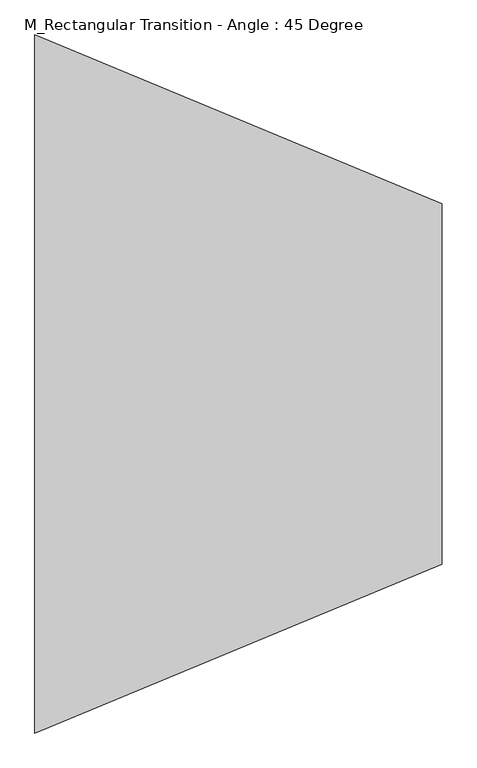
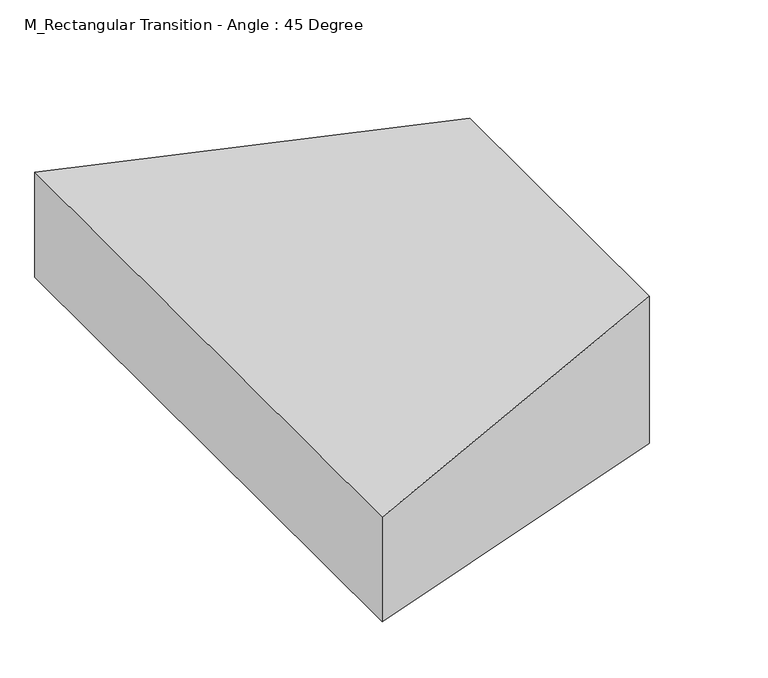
"""IFC4 building model written with IfcOpenShell, lengths in millimetres: duct fitting geometry, M_Rectangular Transition - Angle : 45 Degree."""

import ifcopenshell
import ifcopenshell.guid

model = None  # the IFC model being written
_history = None  # IfcOwnerHistory: only IFC2X3 demands one
_inside = {}  # id of a spatial element -> (the spatial element, [elements in it])
_under = {}  # id of a project, library or spatial element -> (it, [spatial elements below it])
_declared = {}  # id of a project -> (the project, [libraries it declares])
_typed = {}  # id of a type object -> (the type object, [elements of that type])
_made_of = {}  # id of a material, layer set ... -> (it, [elements and type objects made of it])


def new_model(schema):
    """Start an empty IFC model of exactly this schema.

    Asked for "IFC4X3", IfcOpenShell would pick the latest addendum, in which some entities
    have other attributes; the version numbers below select the first issue.
    IFC2X3 requires an IfcOwnerHistory on every rooted entity: one is made here for all.
    """
    global model, _history
    if schema == "IFC4X3":
        model = ifcopenshell.file(schema_version=(4, 3, 0, 0))
    else:
        model = ifcopenshell.file(schema=schema)
    _inside.clear()
    _under.clear()
    _declared.clear()
    _typed.clear()
    _made_of.clear()
    _history = None
    if model.schema == "IFC2X3":
        org = make("IfcOrganization", Name="unknown")
        user = make(
            "IfcPersonAndOrganization",
            ThePerson=make("IfcPerson", FamilyName="unknown"),
            TheOrganization=org,
        )
        app = make(
            "IfcApplication",
            ApplicationDeveloper=org,
            Version="unknown",
            ApplicationFullName="unknown",
            ApplicationIdentifier="unknown",
        )
        _history = make(
            "IfcOwnerHistory",
            OwningUser=user,
            OwningApplication=app,
            ChangeAction="ADDED",
            CreationDate=0,
        )
    return model


def make(cls, **values):
    """One entity of the class cls with the attributes given. An attribute that is None is left unset."""
    return model.create_entity(
        cls, **{name: value for name, value in values.items() if value is not None}
    )


def rooted(cls, **values):
    """An entity with a GlobalId (a new one), such as an element, a storey or a relation."""
    return make(cls, GlobalId=ifcopenshell.guid.new(), OwnerHistory=_history, **values)


def si_unit(unit_type, name, prefix=None):
    """IfcSIUnit, for example si_unit("LENGTHUNIT", "METRE", prefix="MILLI")."""
    return make("IfcSIUnit", UnitType=unit_type, Prefix=prefix, Name=name)


def assignment(units):
    """IfcUnitAssignment: the units of a project."""
    return None if units is None else make("IfcUnitAssignment", Units=units)


def point(xyz):
    """IfcCartesianPoint."""
    return None if xyz is None else make("IfcCartesianPoint", Coordinates=xyz)


def direction(xyz):
    """IfcDirection."""
    return None if xyz is None else make("IfcDirection", DirectionRatios=xyz)


def frame(location, z_axis=None, x_axis=None):
    """IfcAxis2Placement3D, a coordinate frame: its origin and axes. An axis left out is left unset."""
    return make(
        "IfcAxis2Placement3D",
        Location=point(location),
        Axis=direction(z_axis),
        RefDirection=direction(x_axis),
    )


def origin():
    """The frame at (0, 0, 0) with its axes left unset."""
    return frame((0.0, 0.0, 0.0))


def place(relative_to, where):
    """IfcLocalPlacement: puts the frame where relative to a parent placement (None: the world)."""
    return make(
        "IfcLocalPlacement", PlacementRelTo=relative_to, RelativePlacement=where
    )


def context(
    kind, dimensions, precision=None, world=None, true_north=None, identifier=None
):
    """IfcGeometricRepresentationContext, for example the 3D "Model" context."""
    return make(
        "IfcGeometricRepresentationContext",
        ContextIdentifier=identifier,
        ContextType=kind,
        CoordinateSpaceDimension=dimensions,
        Precision=precision,
        WorldCoordinateSystem=world,
        TrueNorth=true_north,
    )


def project(units=None, contexts=None):
    """IfcProject with its units and contexts."""
    return rooted(
        "IfcProject",
        Name="project",
        RepresentationContexts=contexts,
        UnitsInContext=assignment(units),
    )


def spatial(cls, under=None, at=None, **own):
    """A site, building, storey or space (cls), placed at a placement, below another one or the project."""
    s = rooted(cls, ObjectPlacement=at, **own)
    if under is not None:
        _under.setdefault(under.id(), (under, []))[1].append(s)
    return s


def faces_of(points, faces, orient=None, outer=None):
    """IfcFace entities. A face is a list of loops; a loop is a list of indices into points, from 0.

    orient and outer hold one flag for each loop. By default every Orientation is true, the
    first loop of a face is its IfcFaceOuterBound and the others are IfcFaceBound.
    """
    made = []
    for i, loops in enumerate(faces):
        bounds = []
        for j, loop in enumerate(loops):
            is_outer = j == 0 if outer is None else outer[i][j]
            bounds.append(
                make(
                    "IfcFaceOuterBound" if is_outer else "IfcFaceBound",
                    Bound=make("IfcPolyLoop", Polygon=[points[k] for k in loop]),
                    Orientation=True if orient is None else orient[i][j],
                )
            )
        made.append(make("IfcFace", Bounds=bounds))
    return made


def faceted_brep(points, faces, orient=None, outer=None, voids=None):
    """IfcFacetedBrep: a solid bounded by flat faces; with voids (closed shells), ...WithVoids."""
    shared = [point(p) for p in points]
    hull = make("IfcClosedShell", CfsFaces=faces_of(shared, faces, orient, outer))
    if voids is None:
        return make("IfcFacetedBrep", Outer=hull)
    return make(
        "IfcFacetedBrepWithVoids",
        Outer=hull,
        Voids=[
            make(cls, CfsFaces=faces_of(shared, fs, o, b)) for cls, fs, o, b in voids
        ],
    )


def shape(context_of_items, identifier, shape_type, items):
    """IfcShapeRepresentation: the items that make up one representation, for example the "Body"."""
    return make(
        "IfcShapeRepresentation",
        ContextOfItems=context_of_items,
        RepresentationIdentifier=identifier,
        RepresentationType=shape_type,
        Items=items,
    )


def source(mapping_origin, context_of_items, identifier, shape_type, items):
    """IfcRepresentationMap: a shape defined once, which mapped items show again and again."""
    return make(
        "IfcRepresentationMap",
        MappingOrigin=mapping_origin,
        MappedRepresentation=shape(context_of_items, identifier, shape_type, items),
    )


def transform(
    local_origin,
    x_axis=None,
    y_axis=None,
    z_axis=None,
    scale=None,
    scale2=None,
    scale3=None,
    uniform=True,
):
    """IfcCartesianTransformationOperator3D, or its non-uniform kind. x_axis, y_axis, z_axis: its Axis1, 2, 3."""
    if uniform:
        return make(
            "IfcCartesianTransformationOperator3D",
            Axis1=direction(x_axis),
            Axis2=direction(y_axis),
            LocalOrigin=point(local_origin),
            Scale=scale,
            Axis3=direction(z_axis),
        )
    return make(
        "IfcCartesianTransformationOperator3DnonUniform",
        Axis1=direction(x_axis),
        Axis2=direction(y_axis),
        LocalOrigin=point(local_origin),
        Scale=scale,
        Axis3=direction(z_axis),
        Scale2=scale2,
        Scale3=scale3,
    )


def mapped(mapping_source, mapping_target):
    """IfcMappedItem: shows the shape of a source again, moved by a transform."""
    return make(
        "IfcMappedItem", MappingSource=mapping_source, MappingTarget=mapping_target
    )


def made_of(thing, what):
    """Note that an element or type object is made of a material, layer set ...; save() writes the relation."""
    if what is not None:
        _made_of.setdefault(what.id(), (what, []))[1].append(thing)
    return thing


def element(
    cls,
    number,
    at=None,
    inside=None,
    cuts=None,
    type_object=None,
    material=None,
    context=None,
    identifier="Body",
    shape_type=None,
    held_by="IfcProductDefinitionShape",
    body=None,
    shapes=None,
    **own,
):
    """One element of the class cls, such as IfcWall. Its Tag is "e" and its number.

    at: its placement. inside: the storey or other place that contains it. cuts: it is an
    opening in that element (IfcRelVoidsElement). A single representation is given by context,
    identifier, shape_type and body (its items); several are given by shapes. held_by: the class
    of the entity that holds the representations. save() writes the other relations.
    """
    e = rooted(cls, Tag="e%d" % number, ObjectPlacement=at, **own)
    if body is not None:
        shapes = [shape(context, identifier, shape_type, body)]
    if shapes is not None:
        e.Representation = make(held_by, Representations=shapes)
    if inside is not None:
        _inside.setdefault(inside.id(), (inside, []))[1].append(e)
    if cuts is not None:
        rooted(
            "IfcRelVoidsElement", RelatingBuildingElement=cuts, RelatedOpeningElement=e
        )
    if type_object is not None:
        _typed.setdefault(type_object.id(), (type_object, []))[1].append(e)
    return made_of(e, material)


def aggregate(whole, parts):
    """IfcRelAggregates: a whole, such as a stair, and the parts it consists of."""
    return rooted("IfcRelAggregates", RelatingObject=whole, RelatedObjects=parts)


def save(model, path):
    """Write the relations noted so far, then the file.

    IfcRelAggregates (storeys below a building ...), IfcRelContainedInSpatialStructure (elements
    in a storey), IfcRelDefinesByType, IfcRelAssociatesMaterial and IfcRelDeclares: one each for
    every whole, place, type object, material and project.
    """
    for whole, parts in _under.values():
        aggregate(whole, parts)
    for where, things in _inside.values():
        rooted(
            "IfcRelContainedInSpatialStructure",
            RelatedElements=things,
            RelatingStructure=where,
        )
    for kind, things in _typed.values():
        rooted("IfcRelDefinesByType", RelatedObjects=things, RelatingType=kind)
    for what, things in _made_of.values():
        rooted("IfcRelAssociatesMaterial", RelatedObjects=things, RelatingMaterial=what)
    for by, libraries in _declared.values():
        rooted("IfcRelDeclares", RelatingContext=by, RelatedDefinitions=libraries)
    model.write(path)


def m_rectangular_transition_angle_45_degree_3b68d6e0(model_context):
    return source(origin(), model_context, "Body", "Brep", [
        faceted_brep([(678.2431227, -300.0, 150.0), (678.2431227, -300.0, -150.0), (678.2431227, 300.0, -150.0), (678.2431227, 300.0, 150.0), (0.0, -580.9375, 107.1375), (0.0, 580.9375, 107.1375), (0.0, 580.9375, -107.1375), (0.0, -580.9375, -107.1375)], [[[0, 1, 2, 3]], [[4, 5, 6, 7]], [[4, 7, 1, 0]], [[7, 6, 2, 1]], [[6, 5, 3, 2]], [[5, 4, 0, 3]]]),
    ])


if __name__ == "__main__":
    model = new_model("IFC4")
    model_context = context("Model", 3, world=origin())
    ifc_project = project(units=[si_unit("LENGTHUNIT", "METRE", prefix="MILLI")], contexts=[model_context])
    site = spatial("IfcSite", under=ifc_project)
    building = spatial("IfcBuilding", under=site)
    placement = place(None, origin())
    m_rectangular_transition_angle_45_degree_shape = m_rectangular_transition_angle_45_degree_3b68d6e0(model_context)
    element("IfcDuctFitting", 1, ObjectType="M_Rectangular Transition - Angle : 45 Degree", at=placement, inside=building, context=model_context, shape_type="MappedRepresentation", body=[
        mapped(m_rectangular_transition_angle_45_degree_shape, transform((0.0, 0.0, 0.0), x_axis=(1.0, 0.0, 0.0), y_axis=(0.0, 1.0, 0.0), z_axis=(0.0, 0.0, 1.0))),
    ])
    save(model, "model.ifc")
